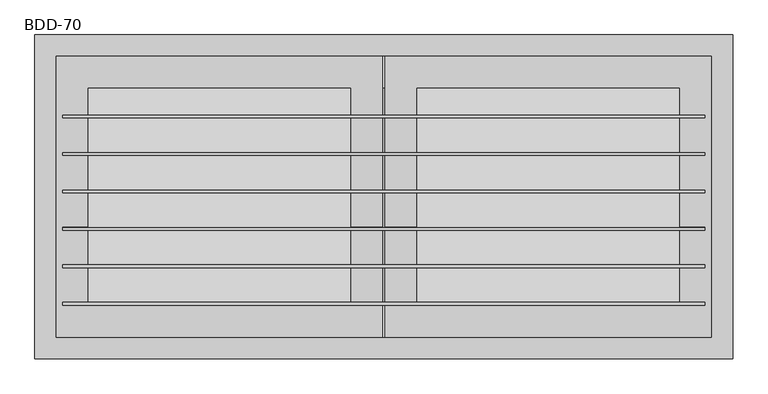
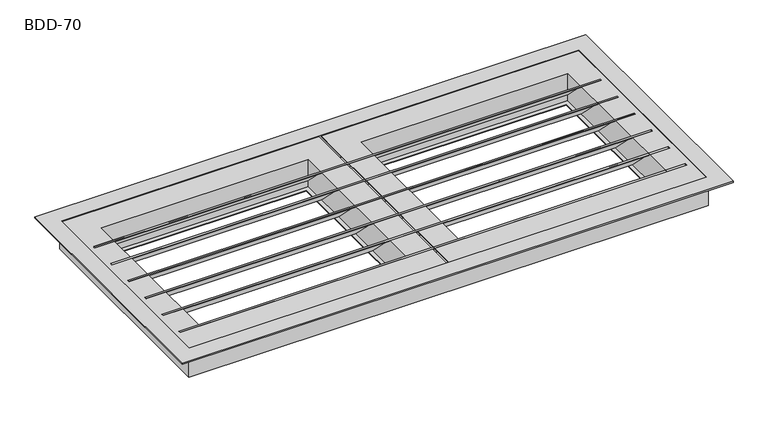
"""IFC4 building model written with IfcOpenShell, lengths in millimetres: air terminal geometry, NLRS_57_AIR_FB_Stalen-roosterdeuren BDD_SMA : BDD-70."""

import ifcopenshell
import ifcopenshell.guid

model = None  # the IFC model being written
_history = None  # IfcOwnerHistory: only IFC2X3 demands one
_inside = {}  # id of a spatial element -> (the spatial element, [elements in it])
_under = {}  # id of a project, library or spatial element -> (it, [spatial elements below it])
_declared = {}  # id of a project -> (the project, [libraries it declares])
_typed = {}  # id of a type object -> (the type object, [elements of that type])
_made_of = {}  # id of a material, layer set ... -> (it, [elements and type objects made of it])


def new_model(schema):
    """Start an empty IFC model of exactly this schema.

    Asked for "IFC4X3", IfcOpenShell would pick the latest addendum, in which some entities
    have other attributes; the version numbers below select the first issue.
    IFC2X3 requires an IfcOwnerHistory on every rooted entity: one is made here for all.
    """
    global model, _history
    if schema == "IFC4X3":
        model = ifcopenshell.file(schema_version=(4, 3, 0, 0))
    else:
        model = ifcopenshell.file(schema=schema)
    _inside.clear()
    _under.clear()
    _declared.clear()
    _typed.clear()
    _made_of.clear()
    _history = None
    if model.schema == "IFC2X3":
        org = make("IfcOrganization", Name="unknown")
        user = make(
            "IfcPersonAndOrganization",
            ThePerson=make("IfcPerson", FamilyName="unknown"),
            TheOrganization=org,
        )
        app = make(
            "IfcApplication",
            ApplicationDeveloper=org,
            Version="unknown",
            ApplicationFullName="unknown",
            ApplicationIdentifier="unknown",
        )
        _history = make(
            "IfcOwnerHistory",
            OwningUser=user,
            OwningApplication=app,
            ChangeAction="ADDED",
            CreationDate=0,
        )
    return model


def make(cls, **values):
    """One entity of the class cls with the attributes given. An attribute that is None is left unset."""
    return model.create_entity(
        cls, **{name: value for name, value in values.items() if value is not None}
    )


def rooted(cls, **values):
    """An entity with a GlobalId (a new one), such as an element, a storey or a relation."""
    return make(cls, GlobalId=ifcopenshell.guid.new(), OwnerHistory=_history, **values)


def si_unit(unit_type, name, prefix=None):
    """IfcSIUnit, for example si_unit("LENGTHUNIT", "METRE", prefix="MILLI")."""
    return make("IfcSIUnit", UnitType=unit_type, Prefix=prefix, Name=name)


def assignment(units):
    """IfcUnitAssignment: the units of a project."""
    return None if units is None else make("IfcUnitAssignment", Units=units)


def point(xyz):
    """IfcCartesianPoint."""
    return None if xyz is None else make("IfcCartesianPoint", Coordinates=xyz)


def direction(xyz):
    """IfcDirection."""
    return None if xyz is None else make("IfcDirection", DirectionRatios=xyz)


def frame(location, z_axis=None, x_axis=None):
    """IfcAxis2Placement3D, a coordinate frame: its origin and axes. An axis left out is left unset."""
    return make(
        "IfcAxis2Placement3D",
        Location=point(location),
        Axis=direction(z_axis),
        RefDirection=direction(x_axis),
    )


def origin():
    """The frame at (0, 0, 0) with its axes left unset."""
    return frame((0.0, 0.0, 0.0))


def place(relative_to, where):
    """IfcLocalPlacement: puts the frame where relative to a parent placement (None: the world)."""
    return make(
        "IfcLocalPlacement", PlacementRelTo=relative_to, RelativePlacement=where
    )


def context(
    kind, dimensions, precision=None, world=None, true_north=None, identifier=None
):
    """IfcGeometricRepresentationContext, for example the 3D "Model" context."""
    return make(
        "IfcGeometricRepresentationContext",
        ContextIdentifier=identifier,
        ContextType=kind,
        CoordinateSpaceDimension=dimensions,
        Precision=precision,
        WorldCoordinateSystem=world,
        TrueNorth=true_north,
    )


def project(units=None, contexts=None):
    """IfcProject with its units and contexts."""
    return rooted(
        "IfcProject",
        Name="project",
        RepresentationContexts=contexts,
        UnitsInContext=assignment(units),
    )


def spatial(cls, under=None, at=None, **own):
    """A site, building, storey or space (cls), placed at a placement, below another one or the project."""
    s = rooted(cls, ObjectPlacement=at, **own)
    if under is not None:
        _under.setdefault(under.id(), (under, []))[1].append(s)
    return s


def polyline(points):
    """IfcPolyline through the points."""
    return make("IfcPolyline", Points=[point(p) for p in points])


def outline(outer, holes=None, kind="AREA"):
    """IfcArbitraryClosedProfileDef: a profile drawn as a closed curve; with holes, ...WithVoids."""
    if holes is None:
        return make("IfcArbitraryClosedProfileDef", ProfileType=kind, OuterCurve=outer)
    return make(
        "IfcArbitraryProfileDefWithVoids",
        ProfileType=kind,
        OuterCurve=outer,
        InnerCurves=holes,
    )


def extrude(swept, where, along, depth):
    """IfcExtrudedAreaSolid: the profile swept, set in the frame where, extruded along a direction by depth."""
    return make(
        "IfcExtrudedAreaSolid",
        SweptArea=swept,
        Position=where,
        ExtrudedDirection=direction(along),
        Depth=depth,
    )


def faces_of(points, faces, orient=None, outer=None):
    """IfcFace entities. A face is a list of loops; a loop is a list of indices into points, from 0.

    orient and outer hold one flag for each loop. By default every Orientation is true, the
    first loop of a face is its IfcFaceOuterBound and the others are IfcFaceBound.
    """
    made = []
    for i, loops in enumerate(faces):
        bounds = []
        for j, loop in enumerate(loops):
            is_outer = j == 0 if outer is None else outer[i][j]
            bounds.append(
                make(
                    "IfcFaceOuterBound" if is_outer else "IfcFaceBound",
                    Bound=make("IfcPolyLoop", Polygon=[points[k] for k in loop]),
                    Orientation=True if orient is None else orient[i][j],
                )
            )
        made.append(make("IfcFace", Bounds=bounds))
    return made


def faceted_brep(points, faces, orient=None, outer=None, voids=None):
    """IfcFacetedBrep: a solid bounded by flat faces; with voids (closed shells), ...WithVoids."""
    shared = [point(p) for p in points]
    hull = make("IfcClosedShell", CfsFaces=faces_of(shared, faces, orient, outer))
    if voids is None:
        return make("IfcFacetedBrep", Outer=hull)
    return make(
        "IfcFacetedBrepWithVoids",
        Outer=hull,
        Voids=[
            make(cls, CfsFaces=faces_of(shared, fs, o, b)) for cls, fs, o, b in voids
        ],
    )


def shape(context_of_items, identifier, shape_type, items):
    """IfcShapeRepresentation: the items that make up one representation, for example the "Body"."""
    return make(
        "IfcShapeRepresentation",
        ContextOfItems=context_of_items,
        RepresentationIdentifier=identifier,
        RepresentationType=shape_type,
        Items=items,
    )


def source(mapping_origin, context_of_items, identifier, shape_type, items):
    """IfcRepresentationMap: a shape defined once, which mapped items show again and again."""
    return make(
        "IfcRepresentationMap",
        MappingOrigin=mapping_origin,
        MappedRepresentation=shape(context_of_items, identifier, shape_type, items),
    )


def transform(
    local_origin,
    x_axis=None,
    y_axis=None,
    z_axis=None,
    scale=None,
    scale2=None,
    scale3=None,
    uniform=True,
):
    """IfcCartesianTransformationOperator3D, or its non-uniform kind. x_axis, y_axis, z_axis: its Axis1, 2, 3."""
    if uniform:
        return make(
            "IfcCartesianTransformationOperator3D",
            Axis1=direction(x_axis),
            Axis2=direction(y_axis),
            LocalOrigin=point(local_origin),
            Scale=scale,
            Axis3=direction(z_axis),
        )
    return make(
        "IfcCartesianTransformationOperator3DnonUniform",
        Axis1=direction(x_axis),
        Axis2=direction(y_axis),
        LocalOrigin=point(local_origin),
        Scale=scale,
        Axis3=direction(z_axis),
        Scale2=scale2,
        Scale3=scale3,
    )


def mapped(mapping_source, mapping_target):
    """IfcMappedItem: shows the shape of a source again, moved by a transform."""
    return make(
        "IfcMappedItem", MappingSource=mapping_source, MappingTarget=mapping_target
    )


def made_of(thing, what):
    """Note that an element or type object is made of a material, layer set ...; save() writes the relation."""
    if what is not None:
        _made_of.setdefault(what.id(), (what, []))[1].append(thing)
    return thing


def element(
    cls,
    number,
    at=None,
    inside=None,
    cuts=None,
    type_object=None,
    material=None,
    context=None,
    identifier="Body",
    shape_type=None,
    held_by="IfcProductDefinitionShape",
    body=None,
    shapes=None,
    **own,
):
    """One element of the class cls, such as IfcWall. Its Tag is "e" and its number.

    at: its placement. inside: the storey or other place that contains it. cuts: it is an
    opening in that element (IfcRelVoidsElement). A single representation is given by context,
    identifier, shape_type and body (its items); several are given by shapes. held_by: the class
    of the entity that holds the representations. save() writes the other relations.
    """
    e = rooted(cls, Tag="e%d" % number, ObjectPlacement=at, **own)
    if body is not None:
        shapes = [shape(context, identifier, shape_type, body)]
    if shapes is not None:
        e.Representation = make(held_by, Representations=shapes)
    if inside is not None:
        _inside.setdefault(inside.id(), (inside, []))[1].append(e)
    if cuts is not None:
        rooted(
            "IfcRelVoidsElement", RelatingBuildingElement=cuts, RelatedOpeningElement=e
        )
    if type_object is not None:
        _typed.setdefault(type_object.id(), (type_object, []))[1].append(e)
    return made_of(e, material)


def aggregate(whole, parts):
    """IfcRelAggregates: a whole, such as a stair, and the parts it consists of."""
    return rooted("IfcRelAggregates", RelatingObject=whole, RelatedObjects=parts)


def save(model, path):
    """Write the relations noted so far, then the file.

    IfcRelAggregates (storeys below a building ...), IfcRelContainedInSpatialStructure (elements
    in a storey), IfcRelDefinesByType, IfcRelAssociatesMaterial and IfcRelDeclares: one each for
    every whole, place, type object, material and project.
    """
    for whole, parts in _under.values():
        aggregate(whole, parts)
    for where, things in _inside.values():
        rooted(
            "IfcRelContainedInSpatialStructure",
            RelatedElements=things,
            RelatingStructure=where,
        )
    for kind, things in _typed.values():
        rooted("IfcRelDefinesByType", RelatedObjects=things, RelatingType=kind)
    for what, things in _made_of.values():
        rooted("IfcRelAssociatesMaterial", RelatedObjects=things, RelatingMaterial=what)
    for by, libraries in _declared.values():
        rooted("IfcRelDeclares", RelatingContext=by, RelatedDefinitions=libraries)
    model.write(path)


def bdd_70_adf86e9b(model_context):
    return source(origin(), model_context, "Body", "SolidModel", [
        extrude(outline(polyline([(77.5, 1.5428063), (82.5, 1.5428063), (149.0257471, -64.9829408), (157.500244, -64.9829408), (157.500244, -66.4571937), (147.5, -66.4571937), (80.999511, 0.0432953), (77.5, 0.0432953), (77.5, 1.5428063)])), frame((-600.0, 0.0, 0.0), z_axis=(1.0, 0.0, 0.0), x_axis=(0.0, 1.0, 0.0)), (0.0, 0.0, 1.0), 1200.0),
        extrude(outline(polyline([(7.5, 1.5428063), (12.5, 1.5428063), (79.0257471, -64.9829408), (87.500244, -64.9829408), (87.500244, -66.4571937), (77.5, -66.4571937), (10.999511, 0.0432953), (7.5, 0.0432953), (7.5, 1.5428063)])), frame((-600.0, 0.0, 0.0), z_axis=(1.0, 0.0, 0.0), x_axis=(0.0, 1.0, 0.0)), (0.0, 0.0, 1.0), 1200.0),
        extrude(outline(polyline([(-62.5, 1.5428063), (-57.5, 1.5428063), (9.0257471, -64.9829408), (17.500244, -64.9829408), (17.500244, -66.4571937), (7.5, -66.4571937), (-59.000489, 0.0432953), (-62.5, 0.0432953), (-62.5, 1.5428063)])), frame((-600.0, 0.0, 0.0), z_axis=(1.0, 0.0, 0.0), x_axis=(0.0, 1.0, 0.0)), (0.0, 0.0, 1.0), 1200.0),
        extrude(outline(polyline([(-132.5, 1.5428063), (-127.5, 1.5428063), (-60.9742529, -64.9829408), (-52.499756, -64.9829408), (-52.499756, -66.4571937), (-62.5, -66.4571937), (-129.000489, 0.0432953), (-132.5, 0.0432953), (-132.5, 1.5428063)])), frame((-600.0, 0.0, 0.0), z_axis=(1.0, 0.0, 0.0), x_axis=(0.0, 1.0, 0.0)), (0.0, 0.0, 1.0), 1200.0),
        extrude(outline(polyline([(147.5, 1.5428063), (152.5, 1.5428063), (202.5, -48.4571937), (202.5, -51.4571937), (150.999511, 0.0432953), (147.5, 0.0432953), (147.5, 1.5428063)])), frame((-600.0, 0.0, 0.0), z_axis=(1.0, 0.0, 0.0), x_axis=(0.0, 1.0, 0.0)), (0.0, 0.0, 1.0), 1200.0),
        extrude(outline(polyline([(-202.5, 1.5428063), (-197.5, 1.5428063), (-130.9742529, -64.9829408), (-122.499756, -64.9829408), (-122.499756, -66.4571937), (-132.5, -66.4571937), (-199.000489, 0.0432953), (-202.5, 0.0432953), (-202.5, 1.5428063)])), frame((-600.0, 0.0, 0.0), z_axis=(1.0, 0.0, 0.0), x_axis=(0.0, 1.0, 0.0)), (0.0, 0.0, 1.0), 1200.0),
        faceted_brep([(542.5, 192.5, -66.4571937), (542.5, 192.5, -68.0), (542.5, -192.5, -68.0), (542.5, -192.5, -66.4571937), (552.5, 202.5, 1.5428063), (552.5, 202.5, -66.4571937), (552.5, -202.5, -66.4571937), (552.5, -202.5, 1.5428063), (612.5, 262.5, 0.0), (612.5, 262.5, 1.5428063), (612.5, -262.5, 1.5428063), (612.5, -262.5, 0.0), (554.0, 204.0, -68.0), (554.0, 204.0, 0.0), (554.0, -204.0, 0.0), (554.0, -204.0, -68.0), (72.5, -192.5, -68.0), (72.5, -192.5, -66.4571937), (62.5, -202.5, -66.4571937), (62.5, -202.5, 1.5428063), (2.5, -262.5, 1.5428063), (2.5, -262.5, 0.0), (61.0, -204.0, 0.0), (61.0, -204.0, -68.0), (72.5, 192.5, -68.0), (72.5, 192.5, -66.4571937), (62.5, 202.5, -66.4571937), (62.5, 202.5, 1.5428063), (2.5, 262.5, 1.5428063), (2.5, 262.5, 0.0), (61.0, 204.0, 0.0), (61.0, 204.0, -68.0)], [[[0, 1, 2, 3]], [[4, 5, 6, 7]], [[8, 9, 10, 11]], [[12, 13, 14, 15]], [[3, 2, 16, 17]], [[7, 6, 18, 19]], [[11, 10, 20, 21]], [[15, 14, 22, 23]], [[17, 16, 24, 25]], [[19, 18, 26, 27]], [[21, 20, 28, 29]], [[23, 22, 30, 31]], [[15, 23, 31, 12], [1, 24, 16, 2]], [[25, 24, 1, 0]], [[5, 26, 18, 6], [3, 17, 25, 0]], [[27, 26, 5, 4]], [[9, 28, 20, 10], [7, 19, 27, 4]], [[29, 28, 9, 8]], [[11, 21, 29, 8], [13, 30, 22, 14]], [[31, 30, 13, 12]]]),
        faceted_brep([(652.5, 302.5, 0.0), (652.5, 302.5, 3.0), (652.5, -302.5, 3.0), (652.5, -302.5, 0.0), (615.5, 265.5, -68.0), (615.5, 265.5, 0.0), (615.5, -265.5, 0.0), (615.5, -265.5, -68.0), (612.5, 262.5, 3.0), (612.5, 262.5, -68.0), (612.5, -262.5, -68.0), (612.5, -262.5, 3.0), (-652.5, -302.5, 3.0), (-652.5, -302.5, 0.0), (-615.5, -265.5, 0.0), (-615.5, -265.5, -68.0), (-612.5, -262.5, -68.0), (-612.5, -262.5, 3.0), (-652.5, 302.5, 3.0), (-652.5, 302.5, 0.0), (-615.5, 265.5, 0.0), (-615.5, 265.5, -68.0), (-612.5, 262.5, -68.0), (-612.5, 262.5, 3.0)], [[[0, 1, 2, 3]], [[4, 5, 6, 7]], [[8, 9, 10, 11]], [[3, 2, 12, 13]], [[7, 6, 14, 15]], [[11, 10, 16, 17]], [[13, 12, 18, 19]], [[15, 14, 20, 21]], [[17, 16, 22, 23]], [[1, 18, 12, 2], [11, 17, 23, 8]], [[19, 18, 1, 0]], [[3, 13, 19, 0], [5, 20, 14, 6]], [[21, 20, 5, 4]], [[7, 15, 21, 4], [9, 22, 16, 10]], [[23, 22, 9, 8]]]),
        faceted_brep([(-552.5, 202.5, -66.5), (-552.5, 202.5, 1.5428063), (-552.5, -202.5, 1.5428063), (-552.5, -202.5, -66.5), (-542.5, 192.5, -68.0), (-542.5, 192.5, -66.5), (-542.5, -192.5, -66.5), (-542.5, -192.5, -68.0), (-554.0, 204.0, 0.0), (-554.0, 204.0, -68.0), (-554.0, -204.0, -68.0), (-554.0, -204.0, 0.0), (-612.5, 262.5, 1.5428063), (-612.5, 262.5, 0.0), (-612.5, -262.5, 0.0), (-612.5, -262.5, 1.5428063), (-62.5, -202.5, 1.5428063), (-62.5, -202.5, -66.5), (-72.5, -192.5, -66.5), (-72.5, -192.5, -68.0), (-61.0, -204.0, -68.0), (-61.0, -204.0, 0.0), (-2.5, -262.5, 0.0), (-2.5, -262.5, 1.5428063), (-62.5, 202.5, 1.5428063), (-62.5, 202.5, -66.5), (-72.5, 192.5, -66.5), (-72.5, 192.5, -68.0), (-61.0, 204.0, -68.0), (-61.0, 204.0, 0.0), (-2.5, 262.5, 0.0), (-2.5, 262.5, 1.5428063)], [[[0, 1, 2, 3]], [[4, 5, 6, 7]], [[8, 9, 10, 11]], [[12, 13, 14, 15]], [[3, 2, 16, 17]], [[7, 6, 18, 19]], [[11, 10, 20, 21]], [[15, 14, 22, 23]], [[17, 16, 24, 25]], [[19, 18, 26, 27]], [[21, 20, 28, 29]], [[23, 22, 30, 31]], [[15, 23, 31, 12], [1, 24, 16, 2]], [[25, 24, 1, 0]], [[3, 17, 25, 0], [5, 26, 18, 6]], [[27, 26, 5, 4]], [[9, 28, 20, 10], [7, 19, 27, 4]], [[29, 28, 9, 8]], [[13, 30, 22, 14], [11, 21, 29, 8]], [[31, 30, 13, 12]]]),
    ])


if __name__ == "__main__":
    model = new_model("IFC4")
    model_context = context("Model", 3, world=origin())
    ifc_project = project(units=[si_unit("LENGTHUNIT", "METRE", prefix="MILLI")], contexts=[model_context])
    site = spatial("IfcSite", under=ifc_project)
    building = spatial("IfcBuilding", under=site)
    placement = place(None, origin())
    bdd_70_shape = bdd_70_adf86e9b(model_context)
    element("IfcAirTerminal", 1, ObjectType="NLRS_57_AIR_FB_Stalen-roosterdeuren BDD_SMA : BDD-70", at=placement, inside=building, context=model_context, shape_type="MappedRepresentation", body=[
        mapped(bdd_70_shape, transform((0.0, 0.0, 0.0), x_axis=(1.0, 0.0, 0.0), y_axis=(0.0, 1.0, 0.0), z_axis=(0.0, 0.0, 1.0))),
    ])
    save(model, "model.ifc")
